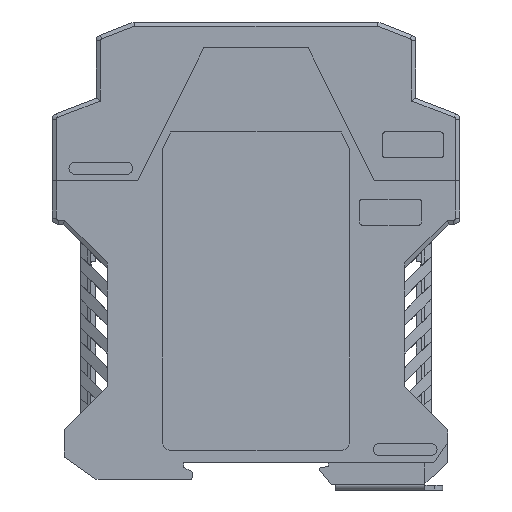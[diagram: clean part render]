
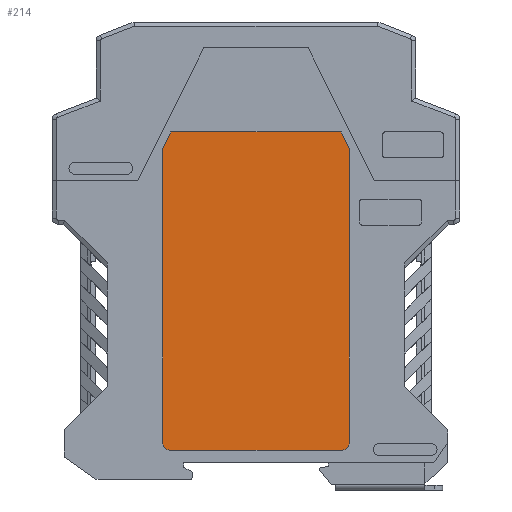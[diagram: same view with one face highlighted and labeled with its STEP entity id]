
A CAD part, left-side view. The second image highlights one B-rep face of the part: STEP entity #214.
In plain terms, the highlighted planar face has unit normal (-1, 0, 0).
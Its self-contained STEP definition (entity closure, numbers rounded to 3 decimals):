
#214=ADVANCED_FACE('',(#2258),#2259,.T.);
#2258=FACE_OUTER_BOUND('',#6359,.T.);
#2259=PLANE('',#6360);
#6359=EDGE_LOOP('',(#11293,#11294,#11295,#11296,#11297,#11298,#11299,#11300));
#6360=AXIS2_PLACEMENT_3D('',#11301,#11302,#11303);
#11293=ORIENTED_EDGE('',*,*,#27710,.T.);
#11294=ORIENTED_EDGE('',*,*,#27707,.T.);
#11295=ORIENTED_EDGE('',*,*,#27701,.T.);
#11296=ORIENTED_EDGE('',*,*,#27703,.F.);
#11297=ORIENTED_EDGE('',*,*,#27716,.T.);
#11298=ORIENTED_EDGE('',*,*,#27712,.F.);
#11299=ORIENTED_EDGE('',*,*,#27717,.T.);
#11300=ORIENTED_EDGE('',*,*,#27718,.T.);
#11301=CARTESIAN_POINT('',(-149.45,890.324,121.584));
#11302=DIRECTION('',(-1.0,0.,0.));
#11303=DIRECTION('',(0.,0.0,1.0));
#27701=EDGE_CURVE('',#33248,#33252,#33254,.T.);
#27703=EDGE_CURVE('',#33256,#33252,#33258,.T.);
#27707=EDGE_CURVE('',#33261,#33248,#33264,.T.);
#27710=EDGE_CURVE('',#33266,#33261,#33269,.T.);
#27712=EDGE_CURVE('',#33271,#33273,#33274,.T.);
#27716=EDGE_CURVE('',#33256,#33273,#33279,.T.);
#27717=EDGE_CURVE('',#33271,#33280,#33281,.T.);
#27718=EDGE_CURVE('',#33280,#33266,#33282,.T.);
#33248=VERTEX_POINT('',#42325);
#33252=VERTEX_POINT('',#42331);
#33254=LINE('',#42334,#42335);
#33256=VERTEX_POINT('',#42337);
#33258=CIRCLE('',#42340,2.0);
#33261=VERTEX_POINT('',#42343);
#33264=LINE('',#42348,#42349);
#33266=VERTEX_POINT('',#42351);
#33269=LINE('',#42356,#42357);
#33271=VERTEX_POINT('',#42359);
#33273=VERTEX_POINT('',#42362);
#33274=CIRCLE('',#42363,2.0);
#33279=LINE('',#42370,#42371);
#33280=VERTEX_POINT('',#42372);
#33281=LINE('',#42373,#42374);
#33282=LINE('',#42375,#42376);
#42325=CARTESIAN_POINT('',(-149.45,947.864,131.609));
#42331=CARTESIAN_POINT('',(-149.45,947.864,60.309));
#42334=CARTESIAN_POINT('',(-149.45,947.864,47.309));
#42335=VECTOR('',#55951,1.0);
#42337=CARTESIAN_POINT('',(-149.45,945.864,58.309));
#42340=AXIS2_PLACEMENT_3D('',#55953,#55954,#55955);
#42343=CARTESIAN_POINT('',(-149.45,945.864,135.609));
#42348=CARTESIAN_POINT('',(-149.45,977.054,73.229));
#42349=VECTOR('',#55961,1.0);
#42351=CARTESIAN_POINT('',(-149.45,904.564,135.609));
#42356=CARTESIAN_POINT('',(-149.45,925.214,135.609));
#42357=VECTOR('',#55964,1.0);
#42359=CARTESIAN_POINT('',(-149.45,902.564,60.309));
#42362=CARTESIAN_POINT('',(-149.45,904.564,58.309));
#42363=AXIS2_PLACEMENT_3D('',#55966,#55967,#55968);
#42370=CARTESIAN_POINT('',(-149.45,925.214,58.309));
#42371=VECTOR('',#55974,1.0);
#42372=CARTESIAN_POINT('',(-149.45,902.564,131.609));
#42373=CARTESIAN_POINT('',(-149.45,902.564,47.309));
#42374=VECTOR('',#55975,1.0);
#42375=CARTESIAN_POINT('',(-149.45,873.374,73.229));
#42376=VECTOR('',#55976,1.0);
#55951=DIRECTION('',(0.,0.,-1.0));
#55953=CARTESIAN_POINT('',(-149.45,945.864,60.309));
#55954=DIRECTION('',(1.0,0.,0.));
#55955=DIRECTION('',(0.,1.0,0.));
#55961=DIRECTION('',(0.,0.447,-0.894));
#55964=DIRECTION('',(0.,1.0,0.));
#55966=CARTESIAN_POINT('',(-149.45,904.564,60.309));
#55967=DIRECTION('',(1.0,0.,0.));
#55968=DIRECTION('',(0.,1.0,0.));
#55974=DIRECTION('',(0.,-1.0,0.));
#55975=DIRECTION('',(0.,0.,1.0));
#55976=DIRECTION('',(0.,0.447,0.894));
